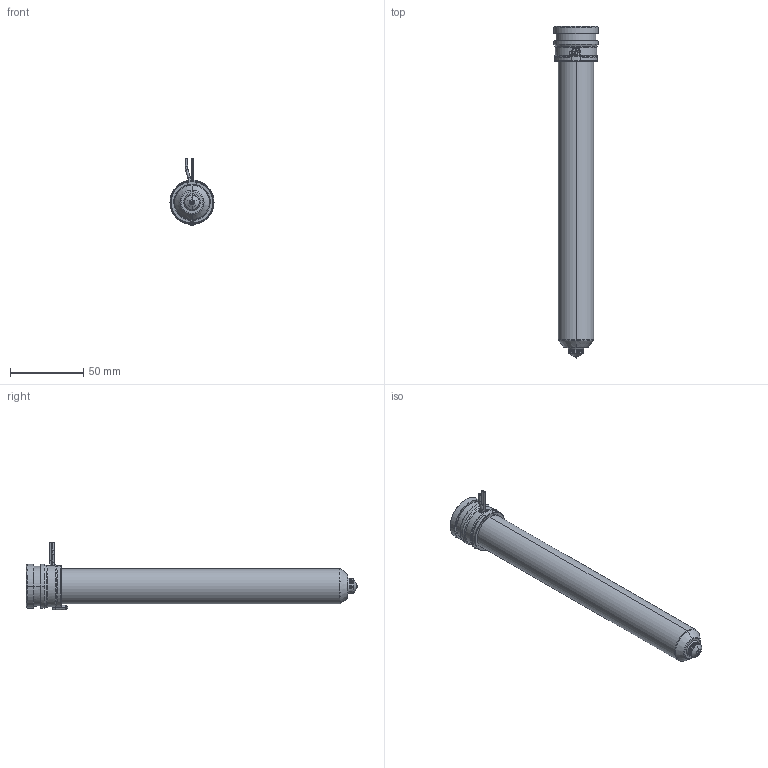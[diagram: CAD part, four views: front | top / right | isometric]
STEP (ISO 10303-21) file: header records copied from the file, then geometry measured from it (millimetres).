
FILE_DESCRIPTION((''),'2;1');
FILE_NAME('MPN-10-29-VSA10-206-A','2026-02-05T12:45:43',('UPTIO'),('Thermoplay S.p.A.'),'CREO PARAMETRIC BY PTC INC, 2023494','CREO PARAMETRIC BY PTC INC, 2023494','');
FILE_SCHEMA(('CONFIG_CONTROL_DESIGN','SHAPE_APPEARANCE_LAYERS_GROUPS'));
Length unit declared in the file: millimetre
Products named in the file (1): MPN-10-29-VSA10-206-A
Bounding box: 30 x 226 x 46 mm (x, y, z)
Volume: 69843.1 mm3; surface area: 71020.9 mm2
Topology: 2 solids, 3 shells, 556 faces, 1451 edges, 894 vertices
Faces by surface type: cylinder 184, plane 142, bspline 77, torus 70, cone 70, sphere 9, extrusion 4
Entity records: 30544 total; most frequent: CARTESIAN_POINT 14130, ORIENTED_EDGE 2890, DIRECTION 2691, EDGE_CURVE 1445, AXIS2_PLACEMENT_3D 1066, VERTEX_POINT 894, CIRCLE 590, EDGE_LOOP 585
